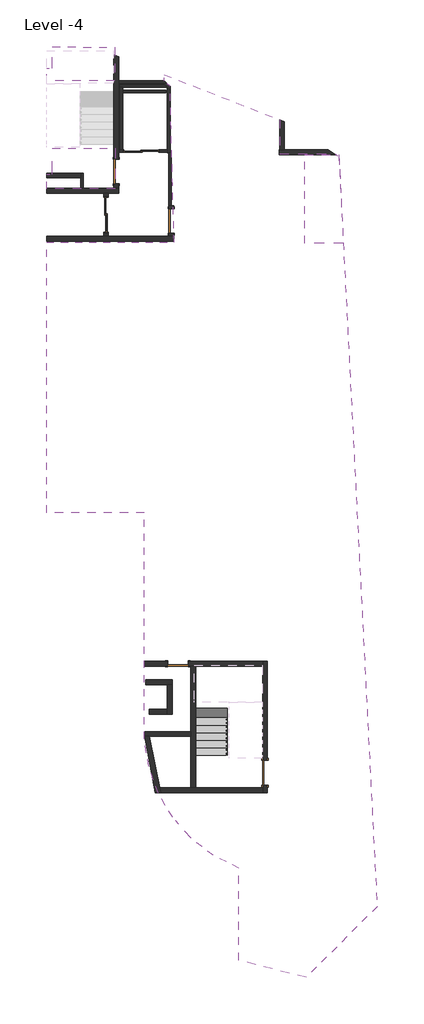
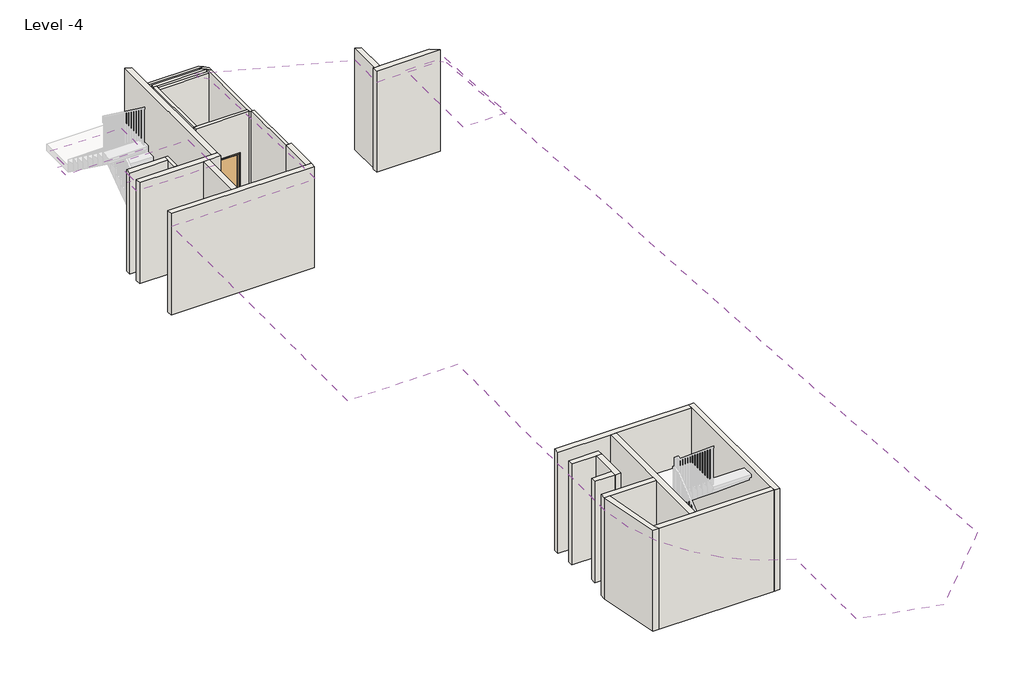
# One storey, part 1 of 2: 26 walls, 6 doors, 4 coverings, 1 stair flight.
"""IFC4 building model written with IfcOpenShell, lengths in millimetres."""

from ifc_helpers import new_model, si_unit, point, frame, frame_2d, origin, place, context, project, spatial, polyline, circle_curve, trimmed, segment, composite_curve, outline, extrude, faceted_brep, transform, mapped, element, save
from ifc_brep_helpers import plane_surface, cylinder_surface, revolved_surface, advanced_brep
from components import m_single_flush_0762_x_2134mm_e7173df3, m_single_flush_0915_x_2032mm_88b5ae01, m_single_flush_0915_x_2134mm_5c733ab1, sliding_door_2_panel_aus_f73f6a40, sliding_door_2_panel_aus_ee5771a8

model = new_model("IFC4")

# Units and contexts
model_context = context("Model", 3, world=origin())
ifc_project = project(units=[si_unit("LENGTHUNIT", "METRE", prefix="MILLI")], contexts=[model_context])

# Site, building, storey
site = spatial("IfcSite", under=ifc_project)
building = spatial("IfcBuilding", under=site)
storey = spatial("IfcBuildingStorey", under=building, Name="Level -4", Elevation=-14000.0)

# Coverings
placement = place(None, origin())
element("IfcCovering", 1, ObjectType="600 x 600mm Grid", at=placement, inside=storey, context=model_context, shape_type="SweptSolid", body=[
    extrude(outline(composite_curve([segment(polyline([(-50.0421304, 6706.8748838), (4649.9578696, 6706.8748838), (4499.6302337, 12469.6208989), (4287.3075102, 12681.9436225), (4287.3075102, 12910.4698504), (8546.2956563, 11236.7124719), (8546.2956563, 9974.899122), (10606.2956563, 9974.899122), (10739.4142744, 9841.7805038), (11644.560032, -7935.1908681), (12147.983796, -17822.3828109), (9531.6887056, -20438.6779013), (7033.8183565, -19807.2861395), (7033.8183565, -16402.4446286)]), True, "CONTINUOUS"), segment(trimmed(circle_curve(frame_2d((9044.1542392, -11277.4219597)), 5505.2073274), [point((7033.8183565, -16402.4446286))], [point((7033.4708981, -16402.3083214))], False, "CARTESIAN"), True, "CONTINUOUS"), segment(trimmed(circle_curve(frame_2d((9044.1542392, -11277.4219597)), 5505.2073274), [point((7033.4708981, -16402.3083214))], [point((3549.4089841, -11616.6597812))], False, "CARTESIAN"), True, "CONTINUOUS"), segment(polyline([(3549.4089841, -11616.6597812), (3549.4089841, -3268.2489802), (-50.0421304, -3268.2489802), (-50.0421304, 6706.8748838)]), True, "CONTINUOUS")], self_intersect=False), holes=[polyline([(8099.9667664, -8760.5298497), (5499.9667664, -8760.5298497), (5499.9667664, -8940.5298497), (5449.992527, -8940.5298497), (5449.992527, -12235.6929429), (5499.9667664, -12235.6929429), (5499.9667664, -13617.5279318), (8099.9667664, -13617.5279318), (8099.9667664, -8760.5298497)])]), frame((0.0, 0.0, -10900.0), z_axis=(0.0, 0.0, 1.0), x_axis=(1.0, 0.0, 0.0)), (0.0, 0.0, 1.0), 52.0),
])
element("IfcCovering", 2, ObjectType="600 x 600mm Grid", at=placement, inside=storey, context=model_context, shape_type="SweptSolid", body=[
    extrude(outline(polyline([(9476.0873915, 9954.899122), (10733.6564426, 9954.899122), (10900.0292232, 6686.33213), (9476.0873915, 6686.33213), (9476.0873915, 9954.899122)])), frame((0.0, 0.0, -10800.0), z_axis=(0.0, 0.0, 1.0), x_axis=(1.0, 0.0, 0.0)), (0.0, 0.0, 1.0), 52.0),
])
element("IfcCovering", 3, ObjectType="600 x 600mm Grid", at=placement, inside=storey, context=model_context, shape_type="SweptSolid", body=[
    extrude(outline(polyline([(2481.8607589, 10179.4957281), (2481.8607589, 8696.8748746), (-50.0421304, 8696.8748746), (-50.0421304, 9219.4957281), (149.9709975, 9219.4957281), (149.9709975, 10179.4957281), (2481.8607589, 10179.4957281)])), frame((0.0, 0.0, -10900.0), z_axis=(0.0, 0.0, 1.0), x_axis=(1.0, 0.0, 0.0)), (0.0, 0.0, 1.0), 52.0),
])
element("IfcCovering", 4, ObjectType="600 x 600mm Grid", at=placement, inside=storey, context=model_context, shape_type="SweptSolid", body=[
    extrude(outline(polyline([(2454.9743495, 12688.8107611), (-60.0421304, 12688.8107611), (-60.0421304, 13143.419171), (149.9709975, 13143.419171), (149.9709975, 13943.419171), (2454.9743495, 13908.8107611), (2454.9743495, 12688.8107611)])), frame((0.0, 0.0, -12750.0), z_axis=(0.0, 0.0, 1.0), x_axis=(1.0, 0.0, 0.0)), (0.0, 0.0, 1.0), 52.0),
])

# Doors
m_single_flush_0762_x_2134mm_shape = m_single_flush_0762_x_2134mm_e7173df3(model_context)
element("IfcDoor", 5, ObjectType="M_Single-Flush : 0762 x 2134mm", at=placement, inside=storey, context=model_context, shape_type="MappedRepresentation", body=[
    mapped(m_single_flush_0762_x_2134mm_shape, transform((4788.992527, -8850.5298497, -14000.0), x_axis=(1.0, 0.0, 0.0), y_axis=(0.0, 1.0, 0.0), z_axis=(0.0, 0.0, 1.0))),
])
m_single_flush_0915_x_2032mm_shape = m_single_flush_0915_x_2032mm_88b5ae01(model_context)
element("IfcDoor", 6, ObjectType="M_Single-Flush : 0915 x 2032mm", at=placement, inside=storey, context=model_context, shape_type="MappedRepresentation", body=[
    mapped(m_single_flush_0915_x_2032mm_shape, transform((8009.9667664, -12880.0279318, -14000.0), x_axis=(0.0, -1.0, 0.0), y_axis=(1.0, 0.0, 0.0), z_axis=(0.0, 0.0, 1.0))),
])
m_single_flush_0915_x_2134mm_shape = m_single_flush_0915_x_2134mm_5c733ab1(model_context)
element("IfcDoor", 7, ObjectType="M_Single-Flush : 0915 x 2134mm", at=placement, inside=storey, context=model_context, shape_type="MappedRepresentation", body=[
    mapped(m_single_flush_0915_x_2134mm_shape, transform((2509.6668671, 9329.4436159, -14000.0), x_axis=(0.0, -1.0, 0.0), y_axis=(1.0, 0.0, 0.0), z_axis=(0.0, 0.0, 1.0))),
])
element("IfcDoor", 8, ObjectType="M_Single-Flush : 0915 x 2134mm", at=placement, inside=storey, context=model_context, shape_type="MappedRepresentation", body=[
    mapped(m_single_flush_0915_x_2134mm_shape, transform((4549.6770164, 7499.4456458, -14000.0), x_axis=(0.0, -1.0, 0.0), y_axis=(1.0, 0.0, 0.0), z_axis=(0.0, 0.0, 1.0))),
])
sliding_door_2_panel_aus_shape = sliding_door_2_panel_aus_f73f6a40(model_context)
element("IfcDoor", 9, ObjectType="Sliding Door - 2 Panel (AUS) : elavator door", at=placement, inside=storey, context=model_context, shape_type="MappedRepresentation", body=[
    mapped(sliding_door_2_panel_aus_shape, transform((2134.7837288, 7646.1973399, -14000.0), x_axis=(0.0, 1.0, 0.0), y_axis=(-1.0, 0.0, 0.0), z_axis=(0.0, 0.0, 1.0))),
])
sliding_door_2_panel_aus_2_shape = sliding_door_2_panel_aus_ee5771a8(model_context)
element("IfcDoor", 10, ObjectType="Sliding Door - 2 Panel (AUS) : elavator door", at=placement, inside=storey, context=model_context, shape_type="MappedRepresentation", body=[
    mapped(sliding_door_2_panel_aus_2_shape, transform((3525.434997, 10081.9436225, -14000.0), x_axis=(-1.0, 0.0, 0.0), y_axis=(0.0, -1.0, 0.0), z_axis=(0.0, 0.0, 1.0))),
])

# Stair flight
element("IfcStairFlight", 11, ObjectType="190mm Depth", at=placement, inside=storey, context=model_context, shape_type="Brep", body=[
    faceted_brep([(5389.9709976, -11955.6929429, -13766.6666667), (5389.9709976, -12235.6929429, -13766.6666667), (6609.9709976, -12235.6929429, -13766.6666667), (6609.9709976, -11955.6929429, -13766.6666667), (5389.9709976, -11955.6929429, -14000.0), (5389.9709976, -12235.6929429, -14000.0), (6609.9709976, -12235.6929429, -14000.0), (6609.9709976, -11955.6929429, -14000.0), (5389.9709976, -11675.6929429, -13533.3333333), (5389.9709976, -11955.6929429, -13533.3333333), (6609.9709976, -11955.6929429, -13533.3333333), (6609.9709976, -11675.6929429, -13533.3333333), (5389.9709976, -11675.6929429, -13780.6579064), (5389.9709976, -11938.9034552, -14000.0), (6609.9709976, -11938.9034552, -14000.0), (6609.9709976, -11675.6929429, -13780.6579064), (5389.9709976, -11395.6929429, -13300.0), (5389.9709976, -11675.6929429, -13300.0), (6609.9709976, -11675.6929429, -13300.0), (6609.9709976, -11395.6929429, -13300.0), (5389.9709976, -11395.6929429, -13547.3245731), (6609.9709976, -11395.6929429, -13547.3245731), (5389.9709976, -11115.6929429, -13066.6666667), (5389.9709976, -11395.6929429, -13066.6666667), (6609.9709976, -11395.6929429, -13066.6666667), (6609.9709976, -11115.6929429, -13066.6666667), (5389.9709976, -11115.6929429, -13313.9912397), (6609.9709976, -11115.6929429, -13313.9912397), (5389.9709976, -10835.6929429, -12833.3333333), (5389.9709976, -11115.6929429, -12833.3333333), (6609.9709976, -11115.6929429, -12833.3333333), (6609.9709976, -10835.6929429, -12833.3333333), (5389.9709976, -10835.6929429, -13080.6579064), (6609.9709976, -10835.6929429, -13080.6579064), (5389.9709976, -10555.6929429, -12600.0), (5389.9709976, -10835.6929429, -12600.0), (6609.9709976, -10835.6929429, -12600.0), (6609.9709976, -10555.6929429, -12600.0), (5389.9709976, -10555.6929429, -12847.3245731), (6609.9709976, -10555.6929429, -12847.3245731), (5389.9709976, -10555.6929429, -12366.6666667), (6609.9709976, -10555.6929429, -12366.6666667), (6609.9709976, -10175.6929429, -12366.6666667), (5389.9709976, -10175.6929429, -12366.6666667), (5389.9709976, -10175.6929429, -12466.6666667), (5389.9709976, -10275.6929429, -12466.6666667), (5389.9709976, -10275.6929429, -12613.9912397), (6609.9709976, -10275.6929429, -12613.9912397), (6609.9709976, -10275.6929429, -12466.6666667), (6609.9709976, -10175.6929429, -12466.6666667)], [[[0, 1, 2, 3]], [[1, 0, 4, 5]], [[2, 1, 5, 6]], [[3, 2, 6, 7]], [[8, 9, 10, 11]], [[4, 0, 9, 8, 12, 13]], [[0, 3, 10, 9]], [[3, 7, 14, 15, 11, 10]], [[16, 17, 18, 19]], [[17, 16, 20, 12, 8]], [[8, 11, 18, 17]], [[19, 18, 11, 15, 21]], [[22, 23, 24, 25]], [[23, 22, 26, 20, 16]], [[16, 19, 24, 23]], [[25, 24, 19, 21, 27]], [[28, 29, 30, 31]], [[29, 28, 32, 26, 22]], [[22, 25, 30, 29]], [[31, 30, 25, 27, 33]], [[34, 35, 36, 37]], [[35, 34, 38, 32, 28]], [[28, 31, 36, 35]], [[37, 36, 31, 33, 39]], [[40, 41, 42, 43]], [[40, 43, 44, 45, 46, 38, 34]], [[34, 37, 41, 40]], [[42, 41, 37, 39, 47, 48, 49]], [[48, 47, 46, 45]], [[5, 4, 13, 14, 7, 6]], [[14, 13, 12, 20, 26, 32, 38, 46, 47, 39, 33, 27, 21, 15]], [[49, 48, 45, 44]], [[49, 44, 43, 42]]]),
])

# Walls
element("IfcWall", 12, ObjectType="Generic - 18cm-gypsu-2boith 2", at=placement, inside=storey, context=model_context, shape_type="Brep", body=[
    faceted_brep([(4639.6770164, 6931.9670663, -14000.0), (4459.6770164, 6931.9670663, -14000.0), (2224.7837288, 6931.9670663, -14000.0), (2044.7837288, 6931.9670663, -14000.0), (-50.0290025, 6931.9670663, -14000.0), (-50.0290025, 6931.9670663, -10500.0), (2044.7837288, 6931.9670663, -10500.0), (2224.7837288, 6931.9670663, -10500.0), (4459.6770164, 6931.9670663, -10500.0), (4639.6770164, 6931.9670663, -10500.0), (4639.6770164, 6751.9670663, -14000.0), (4639.6770164, 6751.9670663, -10500.0), (-50.0290025, 6751.9670663, -10500.0), (-50.0290025, 6751.9670663, -14000.0)], [[[0, 1, 2, 3, 4, 5, 6, 7, 8, 9]], [[10, 11, 12, 13]], [[4, 3, 2, 1, 0, 10, 13]], [[9, 8, 7, 6, 5, 12, 11]], [[0, 9, 11, 10]], [[5, 4, 13, 12]]]),
])
element("IfcWall", 13, ObjectType="Generic - 18cm-gypsu-2boith 2", at=placement, inside=storey, context=model_context, shape_type="Brep", body=[
    faceted_brep([(4459.6770164, 7041.9456458, -11866.0), (4459.6770164, 7041.9456458, -14000.0), (4459.6770164, 6931.9670663, -14000.0), (4459.6770164, 6931.9670663, -10500.0), (4459.6770164, 8066.9242252, -10500.0), (4459.6770164, 8066.9242252, -14000.0), (4459.6770164, 7956.9456458, -14000.0), (4459.6770164, 7956.9456458, -11866.0), (4639.6770164, 6931.9670663, -14000.0), (4639.6770164, 7041.9456458, -14000.0), (4639.6770164, 7041.9456458, -11866.0), (4639.6770164, 7956.9456458, -11866.0), (4639.6770164, 7956.9456458, -14000.0), (4639.6770164, 8066.9242252, -14000.0), (4639.6770164, 8066.9242252, -10500.0), (4639.6770164, 6931.9670663, -10500.0), (4554.958768, 8066.9242252, -14000.0), (4554.958768, 8066.9242252, -10500.0)], [[[0, 1, 2, 3, 4, 5, 6, 7]], [[8, 9, 10, 11, 12, 13, 14, 15]], [[6, 5, 16, 13, 12]], [[2, 1, 9, 8]], [[4, 3, 15, 14, 17]], [[5, 4, 17, 14, 13, 16]], [[3, 2, 8, 15]], [[10, 9, 1, 0]], [[11, 10, 0, 7]], [[12, 11, 7, 6]]]),
])
element("IfcWall", 14, ObjectType="Generic - 18cm-gypsu-2boith 2", at=placement, inside=storey, context=model_context, shape_type="Brep", body=[
    faceted_brep([(2419.6668671, 8871.9436159, -11866.0), (2419.6668671, 8871.9436159, -14000.0), (2419.6668671, 8711.9436159, -14000.0), (2419.6668671, 8711.9436159, -10500.0), (2419.6668671, 13644.4416764, -10500.0), (2419.6668671, 13644.4416764, -14000.0), (2419.6668671, 9786.9436159, -14000.0), (2419.6668671, 9786.9436159, -11866.0), (2599.6668671, 8711.9436159, -14000.0), (2599.6668671, 8871.9436159, -14000.0), (2599.6668671, 8871.9436159, -11866.0), (2599.6668671, 9786.9436159, -11866.0), (2599.6668671, 9786.9436159, -14000.0), (2599.6668671, 13573.7027314, -14000.0), (2599.6668671, 13573.7027314, -10500.0), (2599.6668671, 8711.9436159, -10500.0)], [[[0, 1, 2, 3, 4, 5, 6, 7]], [[8, 9, 10, 11, 12, 13, 14, 15]], [[6, 5, 13, 12]], [[2, 1, 9, 8]], [[4, 3, 15, 14]], [[3, 2, 8, 15]], [[10, 9, 1, 0]], [[11, 10, 0, 7]], [[12, 11, 7, 6]], [[5, 4, 14, 13]]]),
])
element("IfcWall", 15, ObjectType="Generic - 18cm-gypsu-2boith 2", at=placement, inside=storey, context=model_context, shape_type="Brep", body=[
    faceted_brep([(2599.6668671, 8711.9436159, -14000.0), (2419.6668671, 8711.9436159, -14000.0), (-50.0290025, 8711.9436159, -14000.0), (-50.0290025, 8711.9436159, -10500.0), (2419.6668671, 8711.9436159, -10500.0), (2599.6668671, 8711.9436159, -10500.0), (2599.6668671, 8531.9436159, -14000.0), (2599.6668671, 8531.9436159, -10500.0), (2224.7837288, 8531.9436159, -10500.0), (2044.7837288, 8531.9436159, -10500.0), (-50.0290025, 8531.9436159, -10500.0), (-50.0290025, 8531.9436159, -14000.0), (2044.7837288, 8531.9436159, -14000.0), (2224.7837288, 8531.9436159, -14000.0)], [[[0, 1, 2, 3, 4, 5]], [[6, 7, 8, 9, 10, 11, 12, 13]], [[2, 1, 0, 6, 13, 12, 11]], [[5, 4, 3, 10, 9, 8, 7]], [[0, 5, 7, 6]], [[3, 2, 11, 10]]]),
])
element("IfcWall", 16, ObjectType="Generic - 10cm-gypsu-2boith", at=placement, inside=storey, context=model_context, shape_type="Brep", body=[
    faceted_brep([(4454.958768, 10019.4984209, -14000.0), (4454.958768, 8066.9242252, -14000.0), (4454.958768, 8066.9242252, -10500.0), (4454.958768, 10019.4984209, -10500.0), (4554.958768, 10019.4984209, -14000.0), (4554.958768, 10019.4984209, -10500.0), (4554.958768, 8066.9242252, -10500.0), (4554.958768, 8066.9242252, -14000.0), (4499.6302337, 10019.4984209, -14000.0), (4459.6770164, 8066.9242252, -14000.0), (4459.6770164, 8066.9242252, -10500.0), (4499.6302337, 10019.4984209, -10500.0)], [[[0, 1, 2, 3]], [[4, 5, 6, 7]], [[1, 0, 8, 4, 7, 9]], [[2, 1, 9, 7, 6, 10]], [[3, 2, 10, 6, 5, 11]], [[0, 3, 11, 5, 4, 8]]]),
])
element("IfcWall", 17, ObjectType="Generic - 10cm-gypsu-2boith", at=placement, inside=storey, context=model_context, shape_type="Brep", body=[
    faceted_brep([(1198.6625691, 9269.4957276, -14000.0), (1198.6625691, 9089.4957276, -14000.0), (1198.6625691, 8731.9436159, -14000.0), (1198.6625691, 8731.9436159, -10500.0), (1198.6625691, 9089.4957276, -10500.0), (1198.6625691, 9269.4957276, -10500.0), (1298.6625691, 9269.4957276, -14000.0), (1298.6625691, 9269.4957276, -10500.0), (1298.6625691, 8731.9436159, -10500.0), (1298.6625691, 8731.9436159, -14000.0)], [[[0, 1, 2, 3, 4, 5]], [[6, 7, 8, 9]], [[2, 1, 0, 6, 9]], [[3, 2, 9, 8]], [[5, 4, 3, 8, 7]], [[0, 5, 7, 6]]]),
])
element("IfcWall", 18, ObjectType="Generic - 18cm-gypsu-2boith 2", at=placement, inside=storey, context=model_context, shape_type="SweptSolid", body=[
    extrude(outline(polyline([(1198.6625691, 9089.4957276), (-50.0290025, 9089.4957276), (-50.0290025, 9269.4957276), (1198.6625691, 9269.4957276), (1198.6625691, 9089.4957276)])), frame((0.0, 0.0, -14000.0), z_axis=(0.0, 0.0, 1.0), x_axis=(1.0, 0.0, 0.0)), (0.0, 0.0, 1.0), 3500.0),
])
element("IfcWall", 19, ObjectType="Generic - 10cm-gypsu-2boith", at=placement, inside=storey, context=model_context, shape_type="Brep", body=[
    faceted_brep([(4399.6302337, 10031.9436225, -10500.0), (2649.6769958, 10031.9436225, -10500.0), (2649.6769958, 10031.9436225, -14000.0), (2749.6769958, 10031.9436225, -14000.0), (2749.6769958, 10031.9436225, -11817.0), (4129.6769958, 10031.9436225, -11817.0), (4129.6769958, 10031.9436225, -14000.0), (4399.6302337, 10031.9436225, -14000.0), (2649.6769958, 10131.9436225, -10500.0), (2749.6769958, 10131.9436225, -10500.0), (4399.6302337, 10131.9436225, -10500.0), (4399.6302337, 10131.9436225, -14000.0), (4129.6769958, 10131.9436225, -14000.0), (4129.6769958, 10131.9436225, -11817.0), (2749.6769958, 10131.9436225, -11817.0), (2749.6769958, 10131.9436225, -14000.0), (2649.6769958, 10131.9436225, -14000.0)], [[[0, 1, 2, 3, 4, 5, 6, 7]], [[8, 9, 10, 11, 12, 13, 14, 15, 16]], [[2, 16, 15, 3]], [[11, 7, 6, 12]], [[1, 0, 10, 9, 8]], [[2, 1, 8, 16]], [[0, 7, 11, 10]], [[5, 13, 12, 6]], [[13, 5, 4, 14]], [[14, 4, 3, 15]]]),
])
element("IfcWall", 20, ObjectType="Generic - 10cm-gypsu-2boith", at=placement, inside=storey, context=model_context, shape_type="Brep", body=[
    faceted_brep([(4399.6302337, 12428.1995427, -14000.0), (4399.6302337, 10131.9436225, -14000.0), (4399.6302337, 10031.9436225, -14000.0), (4399.6302337, 10019.4984209, -14000.0), (4399.6302337, 10019.4984209, -10500.0), (4399.6302337, 10031.9436225, -10500.0), (4399.6302337, 10131.9436225, -10500.0), (4399.6302337, 12428.1995427, -10500.0), (4499.6302337, 12328.1995427, -14000.0), (4499.6302337, 12328.1995427, -10500.0), (4499.6302337, 10019.4984209, -10500.0), (4499.6302337, 10019.4984209, -14000.0), (4454.958768, 10019.4984209, -14000.0), (4454.958768, 10019.4984209, -10500.0)], [[[0, 1, 2, 3, 4, 5, 6, 7]], [[8, 9, 10, 11]], [[3, 2, 1, 0, 8, 11, 12]], [[4, 3, 12, 11, 10, 13]], [[7, 6, 5, 4, 13, 10, 9]], [[0, 7, 9, 8]]]),
])
element("IfcWall", 21, ObjectType="Generic - 10cm-gypsu-2boith", at=placement, inside=storey, context=model_context, shape_type="Brep", body=[
    faceted_brep([(2649.6769958, 12431.9436225, -14000.0), (2649.6769958, 10131.9436225, -14000.0), (2649.6769958, 10131.9436225, -10500.0), (2649.6769958, 12431.9436225, -10500.0), (2749.6769958, 12431.9436225, -14000.0), (2749.6769958, 12431.9436225, -10500.0), (2749.6769958, 12331.9436225, -10500.0), (2749.6769958, 12231.9436225, -10500.0), (2749.6769958, 10131.9436225, -10500.0), (2749.6769958, 10131.9436225, -14000.0), (2749.6769958, 12231.9436225, -14000.0), (2749.6769958, 12331.9436225, -14000.0)], [[[0, 1, 2, 3]], [[4, 5, 6, 7, 8, 9, 10, 11]], [[1, 0, 4, 11, 10, 9]], [[3, 2, 8, 7, 6, 5]], [[2, 1, 9, 8]], [[0, 3, 5, 4]]]),
])
element("IfcWall", 22, ObjectType="Generic - 10cm-gypsu-2boith", at=placement, inside=storey, context=model_context, shape_type="SweptSolid", body=[
    extrude(outline(polyline([(2749.6769958, 12331.9436225), (4349.6770254, 12331.9436225), (4349.6770254, 12231.9436225), (2749.6769958, 12231.9436225), (2749.6769958, 12331.9436225)])), frame((0.0, 0.0, -14000.0), z_axis=(0.0, 0.0, 1.0), x_axis=(1.0, 0.0, 0.0)), (0.0, 0.0, 1.0), 3500.0),
])
element("IfcWall", 23, ObjectType="Generic - 10cm-gypsu-2boith", at=placement, inside=storey, context=model_context, shape_type="Brep", body=[
    faceted_brep([(4295.8861539, 12531.9436225, -14000.0), (2649.6769958, 12531.9436225, -14000.0), (2649.6769958, 12531.9436225, -10500.0), (4295.8861539, 12531.9436225, -10500.0), (4395.8861539, 12431.9436225, -14000.0), (4395.8861539, 12431.9436225, -10500.0), (2749.6769958, 12431.9436225, -10500.0), (2649.6769958, 12431.9436225, -10500.0), (2649.6769958, 12431.9436225, -14000.0), (2749.6769958, 12431.9436225, -14000.0)], [[[0, 1, 2, 3]], [[4, 5, 6, 7, 8, 9]], [[1, 0, 4, 9, 8]], [[3, 2, 7, 6, 5]], [[0, 3, 5, 4]], [[2, 1, 8, 7]]]),
])
element("IfcWall", 24, ObjectType="Generic - 10cm-gypsu-2boith", at=placement, inside=storey, context=model_context, shape_type="Brep", body=[
    faceted_brep([(4287.3075102, 12681.9436225, -14000.0), (2600.9917149, 12681.9436225, -14000.0), (2600.9917149, 12681.9436225, -10500.0), (4287.3075102, 12681.9436225, -10500.0), (4387.3075102, 12581.9436225, -14000.0), (4387.3075102, 12581.9436225, -10500.0), (4245.8861539, 12581.9436225, -10500.0), (2600.9917149, 12581.9436225, -10500.0), (2600.9917149, 12581.9436225, -14000.0), (4245.8861539, 12581.9436225, -14000.0)], [[[0, 1, 2, 3]], [[4, 5, 6, 7, 8, 9]], [[1, 0, 4, 9, 8]], [[2, 1, 8, 7]], [[3, 2, 7, 6, 5]], [[0, 3, 5, 4]]]),
])
element("IfcWall", 25, ObjectType="Generic - 10cm-gypsu-2boith", at=placement, inside=storey, context=model_context, shape_type="Brep", body=[
    faceted_brep([(4499.6302337, 12469.6208989, -14000.0), (4387.3075102, 12581.9436225, -14000.0), (4387.3075102, 12581.9436225, -10500.0), (4499.6302337, 12469.6208989, -10500.0), (4499.6302337, 12328.1995427, -14000.0), (4499.6302337, 12328.1995427, -10500.0), (4399.6302337, 12428.1995427, -10500.0), (4395.8861539, 12431.9436225, -10500.0), (4295.8861539, 12531.9436225, -10500.0), (4245.8861539, 12581.9436225, -10500.0), (4245.8861539, 12581.9436225, -14000.0), (4295.8861539, 12531.9436225, -14000.0), (4395.8861539, 12431.9436225, -14000.0), (4399.6302337, 12428.1995427, -14000.0)], [[[0, 1, 2, 3]], [[4, 5, 6, 7, 8, 9, 10, 11, 12, 13]], [[1, 0, 4, 13, 12, 11, 10]], [[3, 2, 9, 8, 7, 6, 5]], [[2, 1, 10, 9]], [[0, 3, 5, 4]]]),
])
element("IfcWall", 26, ObjectType="Generic - 18cm-gypsu-2boith 2", at=placement, inside=storey, context=model_context, shape_type="Brep", body=[
    faceted_brep([(7919.9667664, -8760.5298497, -14000.0), (5169.992527, -8760.5298497, -14000.0), (5169.992527, -8760.5298497, -11866.0), (4407.992527, -8760.5298497, -11866.0), (4407.992527, -8760.5298497, -14000.0), (3549.4089841, -8760.5298497, -14000.0), (3549.4089841, -8760.5298497, -10500.0), (7919.9667664, -8760.5298497, -10500.0), (5169.992527, -8940.5298497, -11866.0), (5169.992527, -8940.5298497, -14000.0), (5269.992527, -8940.5298497, -14000.0), (5449.992527, -8940.5298497, -14000.0), (7919.9667664, -8940.5298497, -14000.0), (7919.9667664, -8940.5298497, -10500.0), (5449.992527, -8940.5298497, -10500.0), (5269.992527, -8940.5298497, -10500.0), (3549.4089841, -8940.5298497, -10500.0), (3549.4089841, -8940.5298497, -14000.0), (4407.992527, -8940.5298497, -14000.0), (4407.992527, -8940.5298497, -11866.0)], [[[0, 1, 2, 3, 4, 5, 6, 7]], [[8, 9, 10, 11, 12, 13, 14, 15, 16, 17, 18, 19]], [[18, 17, 5, 4]], [[12, 11, 10, 9, 1, 0]], [[6, 5, 17, 16]], [[7, 6, 16, 15, 14, 13]], [[2, 1, 9, 8]], [[3, 2, 8, 19]], [[4, 3, 19, 18]], [[0, 7, 13, 12]]]),
])
element("IfcWall", 27, ObjectType="Generic - 18cm-gypsu-2boith 2", at=placement, inside=storey, context=model_context, shape_type="Brep", body=[
    faceted_brep([(7919.9667664, -13337.5279318, -11968.0), (7919.9667664, -13337.5279318, -14000.0), (7919.9667664, -13437.5279318, -14000.0), (7919.9667664, -13617.5279318, -14000.0), (7919.9667664, -13617.5279318, -10500.0), (7919.9667664, -13437.5279318, -10500.0), (7919.9667664, -8940.5298497, -10500.0), (7919.9667664, -8760.5298497, -10500.0), (7919.9667664, -8760.5298497, -14000.0), (7919.9667664, -8940.5298497, -14000.0), (7919.9667664, -12422.5279318, -14000.0), (7919.9667664, -12422.5279318, -11968.0), (8099.9667664, -13617.5279318, -14000.0), (8099.9667664, -13337.5279318, -14000.0), (8099.9667664, -13337.5279318, -11968.0), (8099.9667664, -12422.5279318, -11968.0), (8099.9667664, -12422.5279318, -14000.0), (8099.9667664, -8760.5298497, -14000.0), (8099.9667664, -8760.5298497, -10500.0), (8099.9667664, -13617.5279318, -10500.0)], [[[0, 1, 2, 3, 4, 5, 6, 7, 8, 9, 10, 11]], [[12, 13, 14, 15, 16, 17, 18, 19]], [[3, 2, 1, 13, 12]], [[10, 9, 8, 17, 16]], [[7, 6, 5, 4, 19, 18]], [[4, 3, 12, 19]], [[14, 13, 1, 0]], [[15, 14, 0, 11]], [[16, 15, 11, 10]], [[8, 7, 18, 17]]]),
])
element("IfcWall", 28, ObjectType="Generic - 18cm-gypsu-2boith 2", at=placement, inside=storey, context=model_context, shape_type="Brep", body=[
    faceted_brep([(5449.992527, -13437.5279318, -14000.0), (5449.992527, -8940.5298497, -14000.0), (5449.992527, -8940.5298497, -10500.0), (5449.992527, -13437.5279318, -10500.0), (5269.992527, -13437.5279318, -14000.0), (5269.992527, -13437.5279318, -10500.0), (5269.992527, -11535.2406086, -10500.0), (5269.992527, -11355.2406086, -10500.0), (5269.992527, -8940.5298497, -10500.0), (5269.992527, -8940.5298497, -14000.0), (5269.992527, -11355.2406086, -14000.0), (5269.992527, -11535.2406086, -14000.0)], [[[0, 1, 2, 3]], [[4, 5, 6, 7, 8, 9, 10, 11]], [[1, 0, 4, 11, 10, 9]], [[3, 2, 8, 7, 6, 5]], [[2, 1, 9, 8]], [[0, 3, 5, 4]]]),
])
element("IfcWall", 29, ObjectType="Generic - 18cm-gypsu-2boith 2", at=placement, inside=storey, context=model_context, shape_type="AdvancedBrep", body=[
    advanced_brep(
    [(7919.9667664, -13437.5279318, -14000.0), (5449.992527, -13437.5279318, -14000.0), (5269.992527, -13437.5279318, -14000.0), (4073.9239779, -13437.5279318, -14000.0), (4073.9239779, -13437.5279318, -10500.0), (5269.992527, -13437.5279318, -10500.0), (5449.992527, -13437.5279318, -10500.0), (7919.9667664, -13437.5279318, -10500.0), (7919.9667664, -13617.5279318, -14000.0), (7919.9667664, -13617.5279318, -10500.0), (4153.3159797, -13617.5279318, -10500.0), (4153.3159797, -13617.5279318, -14000.0)],
    [
        (0, 1),
        (1, 2),
        (2, 3),
        (3, 4),
        (4, 5),
        (5, 6),
        (6, 7),
        (7, 0),
        (8, 9),
        (9, 10),
        (10, 11),
        (11, 8),
        (0, 8),
        (11, 3, circle_curve(frame((8170.7225142, -11738.0751988, -14000.0), z_axis=(0.0, 0.0, -1.0), x_axis=(-0.996421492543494, -0.08452342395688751, 0.0)), 4435.3013245)),
        (4, 10, circle_curve(frame((8170.7225142, -11738.0751988, -10500.0), z_axis=(0.0, 0.0, 1.0), x_axis=(-0.996421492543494, -0.08452342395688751, 0.0)), 4435.3013245)),
        (9, 7),
    ],
    [
        plane_surface(frame((6817.1731359, -13437.5279318, -14000.0), z_axis=(0.0, 1.0, 0.0), x_axis=(-1.0, 0.0, 0.0))),
        plane_surface(frame((6817.1731359, -13617.5279318, -14000.0), z_axis=(0.0, -1.0, 0.0), x_axis=(1.0, 0.0, 0.0))),
        plane_surface(frame((8009.9667664, -13437.5279318, -14000.0), z_axis=(0.0, 0.0, -1.0), x_axis=(0.0, -1.0, 0.0))),
        plane_surface(frame((4014.2563476, -13437.5279318, -10500.0), z_axis=(0.0, 0.0, 1.0), x_axis=(0.0, -1.0, 0.0))),
        plane_surface(frame((7919.9667664, -9630.5561637, -14000.0), z_axis=(1.0, 0.0, 0.0), x_axis=(0.0, -1.0, 0.0))),
        cylinder_surface(frame((8170.7225142, -11738.0751988, -14000.0), z_axis=(0.0, 0.0, -1.0), x_axis=(-0.996421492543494, -0.08452342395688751, 0.0)), 4435.3013245),
    ],
    [
        (0, [[1, 2, 3, 4, 5, 6, 7, 8]]),
        (1, [[9, 10, 11, 12]]),
        (2, [[-3, -2, -1, 13, -12, 14]]),
        (3, [[-7, -6, -5, 15, -10, 16]]),
        (4, [[-8, -16, -9, -13]]),
        (5, [[-4, -14, -11, -15]]),
    ],
),
])
element("IfcWall", 30, ObjectType="Generic - 18cm-gypsu-2boith 2", at=placement, inside=storey, context=model_context, shape_type="AdvancedBrep", body=[
    advanced_brep(
    [(5269.992527, -11355.2406086, -14000.0), (3571.3264677, -11355.2406086, -14000.0), (3571.3264677, -11355.2406086, -10500.0), (5269.992527, -11355.2406086, -10500.0), (5269.992527, -11535.2406086, -14000.0), (5269.992527, -11535.2406086, -10500.0), (3740.061619, -11535.2406086, -10500.0), (3559.8804604, -11535.2406086, -10500.0), (3559.8804604, -11535.2406086, -14000.0), (3740.061619, -11535.2406086, -14000.0)],
    [
        (0, 1),
        (1, 2),
        (2, 3),
        (3, 0),
        (4, 5),
        (5, 6),
        (6, 7),
        (7, 8),
        (8, 9),
        (9, 4),
        (0, 4),
        (8, 1, circle_curve(frame((8170.7225142, -11738.0751988, -14000.0), z_axis=(0.0, 0.0, -1.0), x_axis=(-0.996421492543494, -0.08452342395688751, 0.0)), 4615.3013245)),
        (2, 7, circle_curve(frame((8170.7225142, -11738.0751988, -10500.0), z_axis=(0.0, 0.0, 1.0), x_axis=(-0.996421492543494, -0.08452342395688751, 0.0)), 4615.3013245)),
        (5, 3),
    ],
    [
        plane_surface(frame((4899.9914965, -11355.2406086, -14000.0), z_axis=(0.0, 1.0, 0.0), x_axis=(-1.0, 0.0, 0.0))),
        plane_surface(frame((4899.9914965, -11535.2406086, -14000.0), z_axis=(0.0, -1.0, 0.0), x_axis=(1.0, 0.0, 0.0))),
        plane_surface(frame((5359.992527, -11355.2406086, -14000.0), z_axis=(0.0, 0.0, -1.0), x_axis=(0.0, -1.0, 0.0))),
        plane_surface(frame((3654.9058682, -11355.2406086, -10500.0), z_axis=(0.0, 0.0, 1.0), x_axis=(0.0, -1.0, 0.0))),
        plane_surface(frame((5269.992527, -8797.3826572, -14000.0), z_axis=(1.0, 0.0, 0.0), x_axis=(0.0, -1.0, 0.0))),
        cylinder_surface(frame((8170.7225142, -11738.0751988, -14000.0), z_axis=(0.0, 0.0, 1.0), x_axis=(-0.996421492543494, -0.08452342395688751, 0.0)), 4615.3013245),
    ],
    [
        (0, [[1, 2, 3, 4]]),
        (1, [[5, 6, 7, 8, 9, 10]]),
        (2, [[-1, 11, -10, -9, 12]]),
        (3, [[-3, 13, -7, -6, 14]]),
        (4, [[-4, -14, -5, -11]]),
        (5, [[-2, -12, -8, -13]]),
    ],
),
])
element("IfcWall", 31, ObjectType="Generic - 18cm-gypsu-2boith 2", at=placement, inside=storey, context=model_context, shape_type="Brep", body=[
    faceted_brep([(4578.6875281, -9450.0867626, -14000.0), (3601.2929486, -9450.0867626, -14000.0), (3601.2929486, -9450.0867626, -10500.0), (4578.6875281, -9450.0867626, -10500.0), (4578.6875281, -9630.0867626, -14000.0), (4578.6875281, -9630.0867626, -10500.0), (4398.6875281, -9630.0867626, -10500.0), (3601.2929486, -9630.0867626, -10500.0), (3601.2929486, -9630.0867626, -14000.0), (4398.6875281, -9630.0867626, -14000.0)], [[[0, 1, 2, 3]], [[4, 5, 6, 7, 8, 9]], [[1, 0, 4, 9, 8]], [[2, 1, 8, 7]], [[3, 2, 7, 6, 5]], [[0, 3, 5, 4]]]),
])
element("IfcWall", 32, ObjectType="Generic - 18cm-gypsu-2boith 2", at=placement, inside=storey, context=model_context, shape_type="Brep", body=[
    faceted_brep([(4398.6875281, -9630.0867626, -14000.0), (4398.6875281, -10530.0867626, -14000.0), (4398.6875281, -10710.0867626, -14000.0), (4398.6875281, -10710.0867626, -10500.0), (4398.6875281, -10530.0867626, -10500.0), (4398.6875281, -9630.0867626, -10500.0), (4578.6875281, -9630.0867626, -14000.0), (4578.6875281, -9630.0867626, -10500.0), (4578.6875281, -10710.0867626, -10500.0), (4578.6875281, -10710.0867626, -14000.0)], [[[0, 1, 2, 3, 4, 5]], [[6, 7, 8, 9]], [[2, 1, 0, 6, 9]], [[5, 4, 3, 8, 7]], [[0, 5, 7, 6]], [[3, 2, 9, 8]]]),
])
element("IfcWall", 33, ObjectType="Generic - 18cm-gypsu-2boith 2", at=placement, inside=storey, context=model_context, shape_type="SweptSolid", body=[
    extrude(outline(polyline([(3731.2929486, -10530.0867626), (4398.6875281, -10530.0867626), (4398.6875281, -10710.0867626), (3731.2929486, -10710.0867626), (3731.2929486, -10530.0867626)])), frame((0.0, 0.0, -14000.0), z_axis=(0.0, 0.0, 1.0), x_axis=(1.0, 0.0, 0.0)), (0.0, 0.0, 1.0), 3500.0),
])
element("IfcWall", 34, ObjectType="Generic - 18cm-gypsu-2boith 2", at=placement, inside=storey, context=model_context, shape_type="AdvancedBrep", body=[
    advanced_brep(
    [(4153.3159797, -13617.5279318, -10500.0), (4073.9213856, -13437.5216298, -10500.0), (3740.061619, -11535.2406086, -10500.0), (3559.8804604, -11535.2406086, -10500.0), (3955.4332311, -13617.5279318, -10500.0), (4153.3159797, -13617.5279318, -14000.0), (3955.4332311, -13617.5279318, -14000.0), (3559.8804604, -11535.2406086, -14000.0), (3740.061619, -11535.2406086, -14000.0), (4073.9213856, -13437.5216298, -14000.0)],
    [
        (0, 1, circle_curve(frame((8170.7225142, -11738.0751988, -10500.0), z_axis=(0.0, 0.0, -1.0), x_axis=(-0.996421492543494, -0.08452342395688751, 0.0)), 4435.3013245)),
        (1, 2, circle_curve(frame((8170.7225142, -11738.0751988, -10500.0), z_axis=(0.0, 0.0, -1.0), x_axis=(-0.996421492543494, -0.08452342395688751, 0.0)), 4435.3013042)),
        (2, 3),
        (3, 4, circle_curve(frame((8170.7225142, -11738.0751988, -10500.0), z_axis=(0.0, 0.0, 1.0), x_axis=(-0.996421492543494, -0.08452342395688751, 0.0)), 4615.3013245)),
        (4, 0),
        (5, 6),
        (6, 7, circle_curve(frame((8170.7225142, -11738.0751988, -14000.0), z_axis=(0.0, 0.0, -1.0), x_axis=(-0.996421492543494, -0.08452342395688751, 0.0)), 4615.3013245)),
        (7, 8),
        (8, 9, circle_curve(frame((8170.7225142, -11738.0751988, -14000.0), z_axis=(0.0, 0.0, 1.0), x_axis=(-0.996421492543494, -0.08452342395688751, 0.0)), 4435.3013245)),
        (9, 5, circle_curve(frame((8170.7225142, -11738.0751988, -14000.0), z_axis=(0.0, 0.0, 1.0), x_axis=(-0.996421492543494, -0.08452342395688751, 0.0)), 4435.3013042)),
        (0, 5),
        (8, 2),
        (3, 7),
        (6, 4),
    ],
    [
        plane_surface(frame((3751.2929486, -12112.962053, -10500.0), z_axis=(0.0, 0.0, 1.0), x_axis=(-0.08452342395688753, 0.996421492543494, 0.0))),
        plane_surface(frame((3751.2929486, -12112.962053, -14000.0), z_axis=(0.0, 0.0, -1.0), x_axis=(0.08452342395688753, -0.996421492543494, 0.0))),
        revolved_surface(polyline([(3751.292948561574, -12112.962053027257, -14000.0), (3751.292948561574, -12112.962053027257, -10500.0)]), (8170.7225142, -11738.0751988, -14000.0), (0.0, 0.0, -1.0)),
        cylinder_surface(frame((8170.7225142, -11738.0751988, -14000.0), z_axis=(0.0, 0.0, 1.0), x_axis=(-0.996421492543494, -0.08452342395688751, 0.0)), 4615.3013245),
        plane_surface(frame((4899.9914965, -11535.2406086, -14000.0), z_axis=(0.0, 1.0, 0.0), x_axis=(1.0, 0.0, 0.0))),
        plane_surface(frame((6817.1731359, -13617.5279318, -14000.0), z_axis=(0.0, -1.0, 0.0), x_axis=(1.0, 0.0, 0.0))),
    ],
    [
        (0, [[1, 2, 3, 4, 5]]),
        (1, [[6, 7, 8, 9, 10]]),
        (2, [[-2, -1, 11, -10, -9, 12]]),
        (3, [[-4, 13, -7, 14]]),
        (4, [[-3, -12, -8, -13]]),
        (5, [[-5, -14, -6, -11]]),
    ],
),
])
element("IfcWall", 35, ObjectType="Generic - 18cm-gypsu-2boith 2", at=placement, inside=storey, context=model_context, shape_type="Brep", body=[
    faceted_brep([(10352.7171453, 10134.899122, -14000.0), (8726.2956563, 10134.899122, -14000.0), (8546.2956563, 10134.899122, -14000.0), (8526.2956563, 10134.899122, -14000.0), (8526.2956563, 10134.899122, -10500.0), (8546.2956563, 10134.899122, -10500.0), (8726.2956563, 10134.899122, -10500.0), (10352.7171453, 10134.899122, -10500.0), (10612.1597204, 9954.899122, -14000.0), (10612.1597204, 9954.899122, -10500.0), (8526.2956563, 9954.899122, -10500.0), (8526.2956563, 9954.899122, -14000.0)], [[[0, 1, 2, 3, 4, 5, 6, 7]], [[8, 9, 10, 11]], [[3, 2, 1, 0, 8, 11]], [[4, 3, 11, 10]], [[7, 6, 5, 4, 10, 9]], [[0, 7, 9, 8]]]),
])
element("IfcWall", 36, ObjectType="Generic - 18cm-gypsu-2boith 2", at=placement, inside=storey, context=model_context, shape_type="SweptSolid", body=[
    extrude(outline(polyline([(8726.2956563, 11165.973527), (8726.2956563, 10134.899122), (8546.2956563, 10134.899122), (8546.2956563, 11236.7124719), (8726.2956563, 11165.973527)])), frame((0.0, 0.0, -14000.0), z_axis=(0.0, 0.0, 1.0), x_axis=(1.0, 0.0, 0.0)), (0.0, 0.0, 1.0), 3500.0),
])
element("IfcWall", 37, ObjectType="Generic - 18cm-gypsu-2boith 2", at=placement, inside=storey, context=model_context, shape_type="SweptSolid", body=[
    extrude(outline(polyline([(6931.9670663, -10500.0), (8531.9436159, -10500.0), (8531.9436159, -14000.0), (8421.9553411, -14000.0), (8421.9553411, -11817.0), (7041.9553411, -11817.0), (7041.9553411, -14000.0), (6931.9670663, -14000.0), (6931.9670663, -10500.0)])), frame((2044.7837288, 0.0, 0.0), z_axis=(1.0, 0.0, 0.0), x_axis=(0.0, 1.0, 0.0)), (0.0, 0.0, 1.0), 180.0),
])

save(model, "model.ifc")
